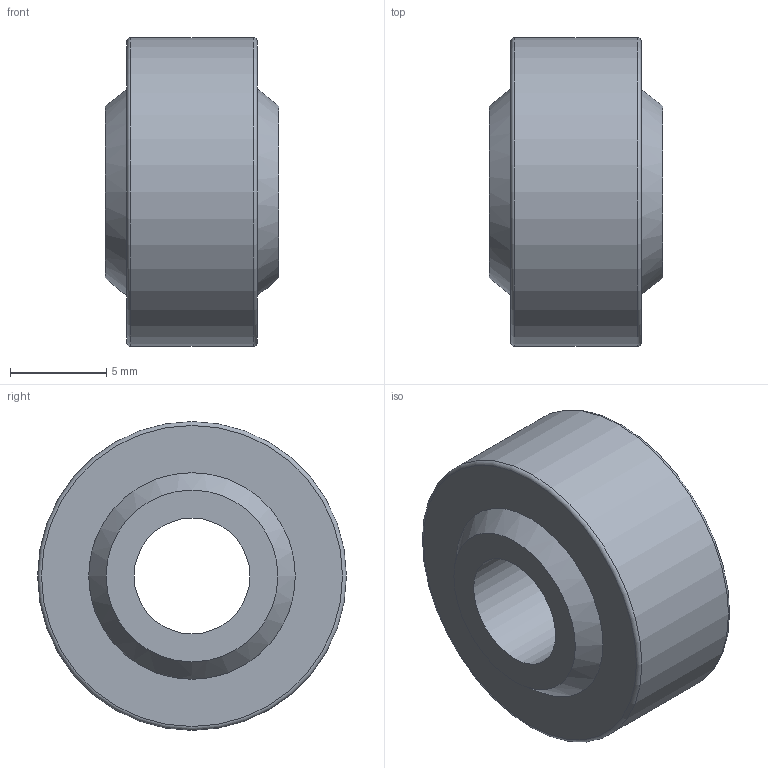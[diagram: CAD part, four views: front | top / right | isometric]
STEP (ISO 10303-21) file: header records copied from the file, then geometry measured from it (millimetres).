
FILE_DESCRIPTION( ( 'STEP AP203' ), '1' );
FILE_NAME( 'C:/Temp/Ganter_Step_05_03_2020/data/3_6/gn_648_8/gn_648_8_w/Ball joint GN 648.8-6-16-W.stp', '2020-03-12T14:14:28', ( 'License CC BY-ND 4.0' ), ( 'CADENAS' ), ' ', 'PARTsolutions', ' ' );
FILE_SCHEMA( ( 'CONFIG_CONTROL_DESIGN' ) );
Length unit declared in the file: millimetre
Products named in the file (3): Ball joint GN 648.8-6-16-W; _Ball joint GN 648.8-6-16-W-2; _Ball joint GN 648.8-6-16-W-1
Assembly tree (2 placements, depth 2):
  Ball joint GN 648.8-6-16-W
    _Ball joint GN 648.8-6-16-W-2
    _Ball joint GN 648.8-6-16-W-1
Bounding box: 9 x 16 x 16 mm (x, y, z)
Volume: 1274.7 mm3; surface area: 1416.6 mm2
Topology: 2 solids, 2 shells, 10 faces, 16 edges, 10 vertices
Faces by surface type: plane 4, sphere 2, torus 2, cylinder 2
Full cylindrical faces by diameter (mm): 6 x1, 16 x1
Entity records: 320 total; most frequent: DIRECTION 46, CARTESIAN_POINT 33, AXIS2_PLACEMENT_3D 23, EDGE_LOOP 20, ORIENTED_EDGE 20, FACE_OUTER_BOUND 16, CC_DESIGN_PERSON_AND_ORGANIZATION_ASSIGNMENT 13, ADVANCED_FACE 10
